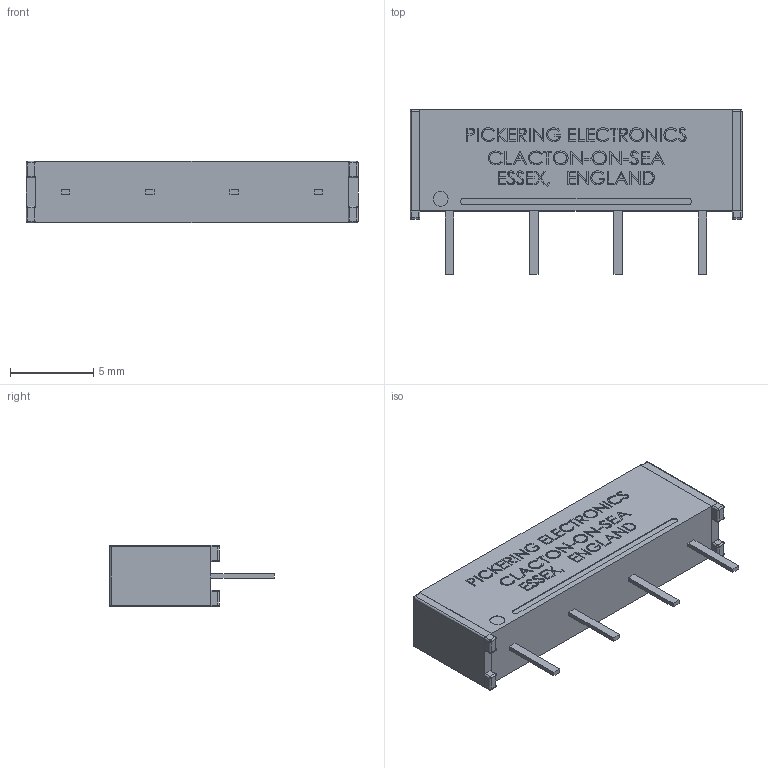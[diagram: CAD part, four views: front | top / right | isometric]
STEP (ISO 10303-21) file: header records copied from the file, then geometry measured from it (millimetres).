
FILE_DESCRIPTION (( 'STEP AP203' ), '1' );
FILE_NAME ('108-1-A.STEP', '2010-06-29T10:49:37', ( ' ' ), ( '' ), 'SwSTEP 2.0', 'SolidWorks 2009', '' );
FILE_SCHEMA (( 'CONFIG_CONTROL_DESIGN' ));
Products named in the file (1): 108-1-A
Bounding box: 20 x 9.9 x 3.7 mm (x, y, z)
Volume: 453 mm3; surface area: 574.4 mm2
Topology: 7 solids, 7 shells, 1092 faces, 2858 edges, 1872 vertices
Faces by surface type: plane 731, bspline 291, cylinder 50, sphere 20
Entity records: 49157 total; most frequent: CARTESIAN_POINT 24230, ORIENTED_EDGE 5676, DIRECTION 3960, EDGE_CURVE 2838, VECTOR 2156, LINE 2156, VERTEX_POINT 1872, EDGE_LOOP 1204
